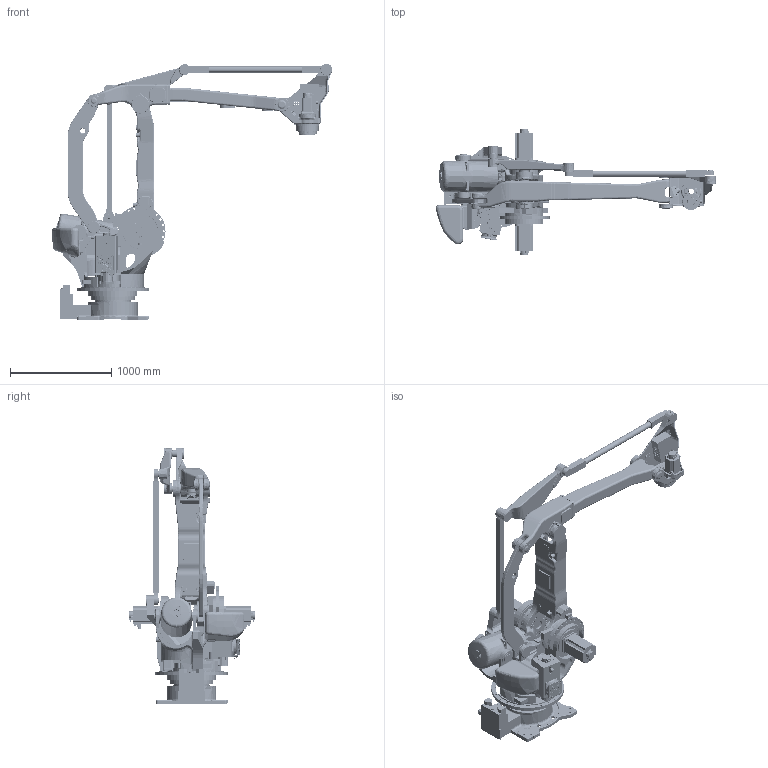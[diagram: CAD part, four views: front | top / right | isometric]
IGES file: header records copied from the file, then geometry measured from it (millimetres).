
Start section: START RECORD GO HERE.
Global section: file name: MPL160.igs; native system: IBM CATIA IGES - CATIA Version 5 Release 16 ; preprocessor: CATIA Version 5 Release 16 ; author: Kugler; organization: SIMOTOMAN; date: 20090327.100956; units: millimetre
Bounding box: 2770.8 x 1241 x 2533.65 mm (x, y, z)
Surface area: 21291758.1 mm2 (no closed solid volume)
Topology: 0 solids, 8740 shells, 8740 faces, 41413 edges, 41056 vertices
Faces by surface type: revolution 5815, plane 2223, bspline 702
